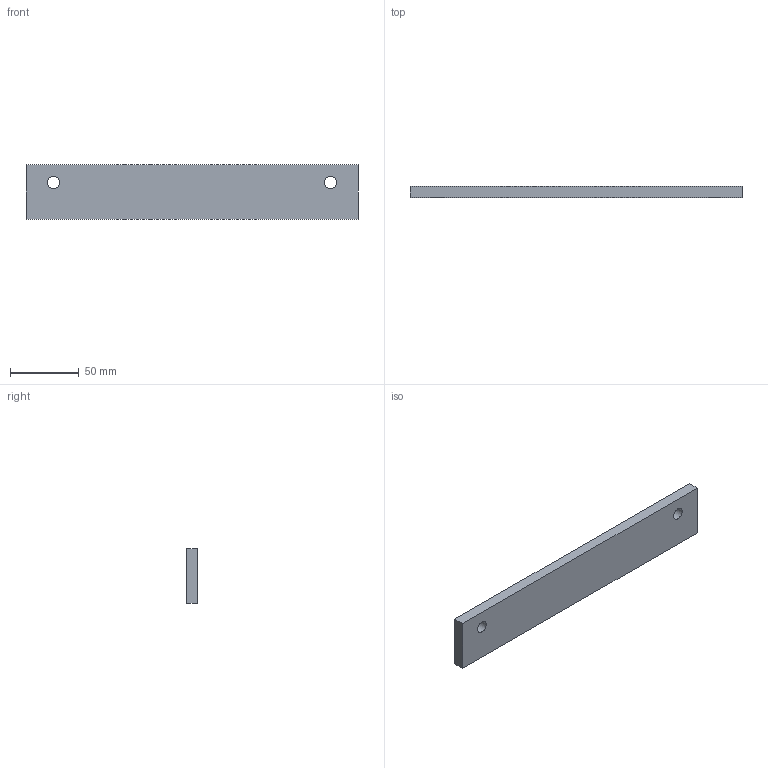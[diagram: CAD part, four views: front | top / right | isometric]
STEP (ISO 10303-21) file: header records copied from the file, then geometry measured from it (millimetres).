
FILE_DESCRIPTION(('Open CASCADE Model'),'2;1');
FILE_NAME('Open CASCADE Shape Model','2026-10-04T01:02:33',('Author'),( 'Open CASCADE'),'Open CASCADE STEP processor 8.0','Open CASCADE 8.0' ,'Unknown');
FILE_SCHEMA(('AUTOMOTIVE_DESIGN { 1 0 10303 214 1 1 1 1 }'));
Length unit declared in the file: millimetre
Products named in the file (1): Open CASCADE STEP translator 8.0 299
Bounding box: 242 x 8 x 40 mm (x, y, z)
Volume: 76466.9 mm3; surface area: 24071.1 mm2
Topology: 1 solids, 1 shells, 8 faces, 18 edges, 12 vertices
Faces by surface type: plane 6, cylinder 2
Full cylindrical faces by diameter (mm): 8.8 x2
Entity records: 478 total; most frequent: DIRECTION 76, CARTESIAN_POINT 75, LINE 46, VECTOR 46, ORIENTED_EDGE 36, PCURVE 36, DEFINITIONAL_REPRESENTATION 36, EDGE_CURVE 18
